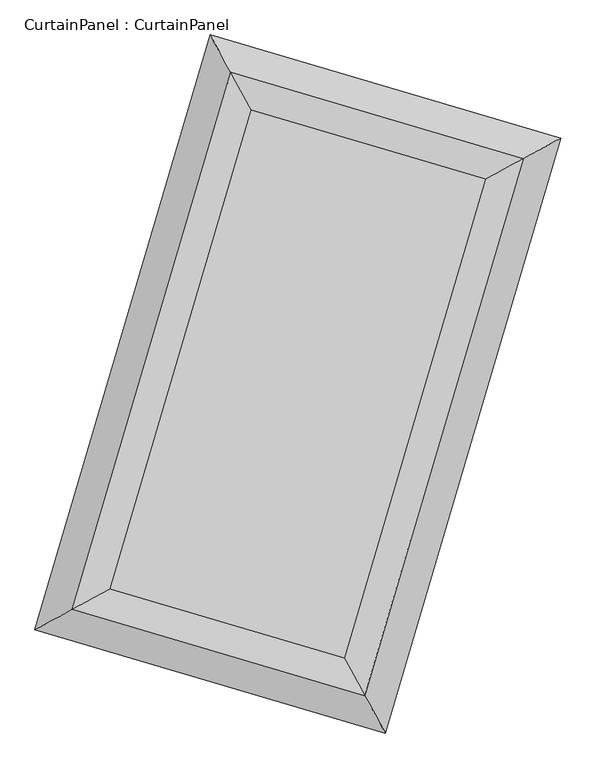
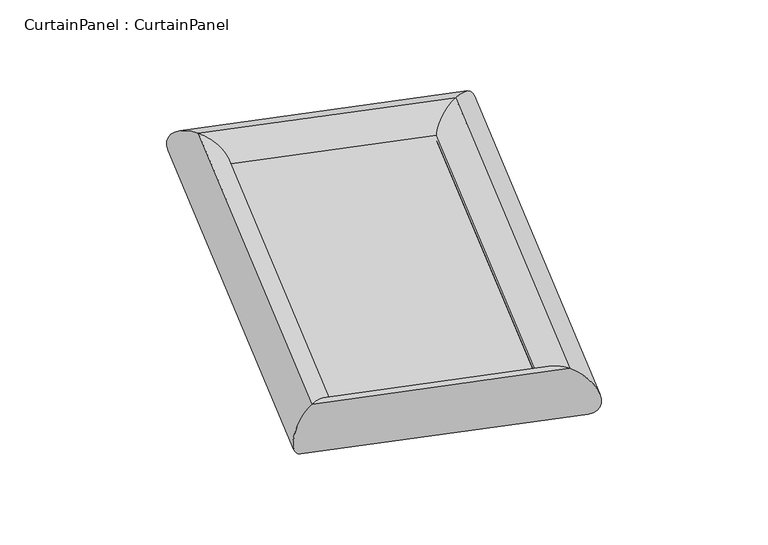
"""IFC4 building model written with IfcOpenShell, lengths in millimetres: plate geometry, CurtainPanel : CurtainPanel."""

import ifcopenshell
import ifcopenshell.guid

model = None  # the IFC model being written
_history = None  # IfcOwnerHistory: only IFC2X3 demands one
_inside = {}  # id of a spatial element -> (the spatial element, [elements in it])
_under = {}  # id of a project, library or spatial element -> (it, [spatial elements below it])
_declared = {}  # id of a project -> (the project, [libraries it declares])
_typed = {}  # id of a type object -> (the type object, [elements of that type])
_made_of = {}  # id of a material, layer set ... -> (it, [elements and type objects made of it])


def new_model(schema):
    """Start an empty IFC model of exactly this schema.

    Asked for "IFC4X3", IfcOpenShell would pick the latest addendum, in which some entities
    have other attributes; the version numbers below select the first issue.
    IFC2X3 requires an IfcOwnerHistory on every rooted entity: one is made here for all.
    """
    global model, _history
    if schema == "IFC4X3":
        model = ifcopenshell.file(schema_version=(4, 3, 0, 0))
    else:
        model = ifcopenshell.file(schema=schema)
    _inside.clear()
    _under.clear()
    _declared.clear()
    _typed.clear()
    _made_of.clear()
    _history = None
    if model.schema == "IFC2X3":
        org = make("IfcOrganization", Name="unknown")
        user = make(
            "IfcPersonAndOrganization",
            ThePerson=make("IfcPerson", FamilyName="unknown"),
            TheOrganization=org,
        )
        app = make(
            "IfcApplication",
            ApplicationDeveloper=org,
            Version="unknown",
            ApplicationFullName="unknown",
            ApplicationIdentifier="unknown",
        )
        _history = make(
            "IfcOwnerHistory",
            OwningUser=user,
            OwningApplication=app,
            ChangeAction="ADDED",
            CreationDate=0,
        )
    return model


def make(cls, **values):
    """One entity of the class cls with the attributes given. An attribute that is None is left unset."""
    return model.create_entity(
        cls, **{name: value for name, value in values.items() if value is not None}
    )


def rooted(cls, **values):
    """An entity with a GlobalId (a new one), such as an element, a storey or a relation."""
    return make(cls, GlobalId=ifcopenshell.guid.new(), OwnerHistory=_history, **values)


def si_unit(unit_type, name, prefix=None):
    """IfcSIUnit, for example si_unit("LENGTHUNIT", "METRE", prefix="MILLI")."""
    return make("IfcSIUnit", UnitType=unit_type, Prefix=prefix, Name=name)


def assignment(units):
    """IfcUnitAssignment: the units of a project."""
    return None if units is None else make("IfcUnitAssignment", Units=units)


def point(xyz):
    """IfcCartesianPoint."""
    return None if xyz is None else make("IfcCartesianPoint", Coordinates=xyz)


def direction(xyz):
    """IfcDirection."""
    return None if xyz is None else make("IfcDirection", DirectionRatios=xyz)


def frame(location, z_axis=None, x_axis=None):
    """IfcAxis2Placement3D, a coordinate frame: its origin and axes. An axis left out is left unset."""
    return make(
        "IfcAxis2Placement3D",
        Location=point(location),
        Axis=direction(z_axis),
        RefDirection=direction(x_axis),
    )


def origin():
    """The frame at (0, 0, 0) with its axes left unset."""
    return frame((0.0, 0.0, 0.0))


def origin_with_axes():
    """The frame at (0, 0, 0) with the z axis (0, 0, 1) and the x axis (1, 0, 0) written out."""
    return frame((0.0, 0.0, 0.0), z_axis=(0.0, 0.0, 1.0), x_axis=(1.0, 0.0, 0.0))


def place(relative_to, where):
    """IfcLocalPlacement: puts the frame where relative to a parent placement (None: the world)."""
    return make(
        "IfcLocalPlacement", PlacementRelTo=relative_to, RelativePlacement=where
    )


def context(
    kind, dimensions, precision=None, world=None, true_north=None, identifier=None
):
    """IfcGeometricRepresentationContext, for example the 3D "Model" context."""
    return make(
        "IfcGeometricRepresentationContext",
        ContextIdentifier=identifier,
        ContextType=kind,
        CoordinateSpaceDimension=dimensions,
        Precision=precision,
        WorldCoordinateSystem=world,
        TrueNorth=true_north,
    )


def project(units=None, contexts=None):
    """IfcProject with its units and contexts."""
    return rooted(
        "IfcProject",
        Name="project",
        RepresentationContexts=contexts,
        UnitsInContext=assignment(units),
    )


def spatial(cls, under=None, at=None, **own):
    """A site, building, storey or space (cls), placed at a placement, below another one or the project."""
    s = rooted(cls, ObjectPlacement=at, **own)
    if under is not None:
        _under.setdefault(under.id(), (under, []))[1].append(s)
    return s


def polyline(points):
    """IfcPolyline through the points."""
    return make("IfcPolyline", Points=[point(p) for p in points])


def ellipse_curve(where, semi_axis1, semi_axis2):
    """IfcEllipse in the frame where."""
    return make(
        "IfcEllipse", Position=where, SemiAxis1=semi_axis1, SemiAxis2=semi_axis2
    )


def outline(outer, holes=None, kind="AREA"):
    """IfcArbitraryClosedProfileDef: a profile drawn as a closed curve; with holes, ...WithVoids."""
    if holes is None:
        return make("IfcArbitraryClosedProfileDef", ProfileType=kind, OuterCurve=outer)
    return make(
        "IfcArbitraryProfileDefWithVoids",
        ProfileType=kind,
        OuterCurve=outer,
        InnerCurves=holes,
    )


def extrude(swept, where, along, depth):
    """IfcExtrudedAreaSolid: the profile swept, set in the frame where, extruded along a direction by depth."""
    return make(
        "IfcExtrudedAreaSolid",
        SweptArea=swept,
        Position=where,
        ExtrudedDirection=direction(along),
        Depth=depth,
    )


def shape(context_of_items, identifier, shape_type, items):
    """IfcShapeRepresentation: the items that make up one representation, for example the "Body"."""
    return make(
        "IfcShapeRepresentation",
        ContextOfItems=context_of_items,
        RepresentationIdentifier=identifier,
        RepresentationType=shape_type,
        Items=items,
    )


def source(mapping_origin, context_of_items, identifier, shape_type, items):
    """IfcRepresentationMap: a shape defined once, which mapped items show again and again."""
    return make(
        "IfcRepresentationMap",
        MappingOrigin=mapping_origin,
        MappedRepresentation=shape(context_of_items, identifier, shape_type, items),
    )


def transform(
    local_origin,
    x_axis=None,
    y_axis=None,
    z_axis=None,
    scale=None,
    scale2=None,
    scale3=None,
    uniform=True,
):
    """IfcCartesianTransformationOperator3D, or its non-uniform kind. x_axis, y_axis, z_axis: its Axis1, 2, 3."""
    if uniform:
        return make(
            "IfcCartesianTransformationOperator3D",
            Axis1=direction(x_axis),
            Axis2=direction(y_axis),
            LocalOrigin=point(local_origin),
            Scale=scale,
            Axis3=direction(z_axis),
        )
    return make(
        "IfcCartesianTransformationOperator3DnonUniform",
        Axis1=direction(x_axis),
        Axis2=direction(y_axis),
        LocalOrigin=point(local_origin),
        Scale=scale,
        Axis3=direction(z_axis),
        Scale2=scale2,
        Scale3=scale3,
    )


def mapped(mapping_source, mapping_target):
    """IfcMappedItem: shows the shape of a source again, moved by a transform."""
    return make(
        "IfcMappedItem", MappingSource=mapping_source, MappingTarget=mapping_target
    )


def made_of(thing, what):
    """Note that an element or type object is made of a material, layer set ...; save() writes the relation."""
    if what is not None:
        _made_of.setdefault(what.id(), (what, []))[1].append(thing)
    return thing


def element(
    cls,
    number,
    at=None,
    inside=None,
    cuts=None,
    type_object=None,
    material=None,
    context=None,
    identifier="Body",
    shape_type=None,
    held_by="IfcProductDefinitionShape",
    body=None,
    shapes=None,
    **own,
):
    """One element of the class cls, such as IfcWall. Its Tag is "e" and its number.

    at: its placement. inside: the storey or other place that contains it. cuts: it is an
    opening in that element (IfcRelVoidsElement). A single representation is given by context,
    identifier, shape_type and body (its items); several are given by shapes. held_by: the class
    of the entity that holds the representations. save() writes the other relations.
    """
    e = rooted(cls, Tag="e%d" % number, ObjectPlacement=at, **own)
    if body is not None:
        shapes = [shape(context, identifier, shape_type, body)]
    if shapes is not None:
        e.Representation = make(held_by, Representations=shapes)
    if inside is not None:
        _inside.setdefault(inside.id(), (inside, []))[1].append(e)
    if cuts is not None:
        rooted(
            "IfcRelVoidsElement", RelatingBuildingElement=cuts, RelatedOpeningElement=e
        )
    if type_object is not None:
        _typed.setdefault(type_object.id(), (type_object, []))[1].append(e)
    return made_of(e, material)


def aggregate(whole, parts):
    """IfcRelAggregates: a whole, such as a stair, and the parts it consists of."""
    return rooted("IfcRelAggregates", RelatingObject=whole, RelatedObjects=parts)


def save(model, path):
    """Write the relations noted so far, then the file.

    IfcRelAggregates (storeys below a building ...), IfcRelContainedInSpatialStructure (elements
    in a storey), IfcRelDefinesByType, IfcRelAssociatesMaterial and IfcRelDeclares: one each for
    every whole, place, type object, material and project.
    """
    for whole, parts in _under.values():
        aggregate(whole, parts)
    for where, things in _inside.values():
        rooted(
            "IfcRelContainedInSpatialStructure",
            RelatedElements=things,
            RelatingStructure=where,
        )
    for kind, things in _typed.values():
        rooted("IfcRelDefinesByType", RelatedObjects=things, RelatingType=kind)
    for what, things in _made_of.values():
        rooted("IfcRelAssociatesMaterial", RelatedObjects=things, RelatingMaterial=what)
    for by, libraries in _declared.values():
        rooted("IfcRelDeclares", RelatingContext=by, RelatedDefinitions=libraries)
    model.write(path)


def cylinder_surface(at, radius):
    """IfcCylindricalSurface: all points at the distance radius from the z axis of the frame at."""
    return make("IfcCylindricalSurface", Position=at, Radius=radius)


def advanced_brep(points, edges, surfaces, faces):
    """IfcAdvancedBrep: a solid bounded by faces that lie on surfaces and meet in shared edges.

    An edge is (start, end): straight between two places in points (the first is 0);
    or (start, end, curve); or (start, end, curve, False) where it runs against its curve.
    A face is (place in surfaces, loops), or (place, loops, False) where it looks against
    its surface's normal. A loop lists edges by number (the first is 1), with a minus sign
    where the edge is run from its end to its start. The first loop is the outer one.
    """
    corners = [point(p) for p in points]
    vertices = [make("IfcVertexPoint", VertexGeometry=c) for c in corners]
    made = []
    for start, end, *more in edges:
        made.append(
            make(
                "IfcEdgeCurve",
                EdgeStart=vertices[start],
                EdgeEnd=vertices[end],
                EdgeGeometry=more[0] if more else make("IfcPolyline", Points=[corners[start], corners[end]]),
                SameSense=more[1] if len(more) > 1 else True,
            )
        )
    hull = []
    for where, loops, *sense in faces:
        bounds = []
        for j, loop in enumerate(loops):
            ring = [make("IfcOrientedEdge", EdgeElement=made[abs(k) - 1], Orientation=k > 0) for k in loop]
            bounds.append(
                make(
                    "IfcFaceOuterBound" if j == 0 else "IfcFaceBound",
                    Bound=make("IfcEdgeLoop", EdgeList=ring),
                    Orientation=True,
                )
            )
        hull.append(make("IfcAdvancedFace", Bounds=bounds, FaceSurface=surfaces[where], SameSense=sense[0] if sense else True))
    return make("IfcAdvancedBrep", Outer=make("IfcClosedShell", CfsFaces=hull))


def curtainpanel_curtainpanel_422c0389(model_context):
    return source(origin(), model_context, "Body", "SolidModel", [
        extrude(outline(polyline([(2938.1282504, 2938.1282504), (4084.8670099, 6830.7109683), (6205.8717496, 6205.8717496), (5059.1329901, 2313.2890317), (2938.1282504, 2938.1282504)])), origin_with_axes(), (0.0, 0.0, 1.0), 20.0),
        advanced_brep(
        [(2938.1282504, 2938.1282504, -220.0), (2938.1282504, 2938.1282504, 220.0), (5059.1329901, 2313.2890317, 220.0), (5059.1329901, 2313.2890317, -220.0), (6205.8717496, 6205.8717496, 220.0), (6205.8717496, 6205.8717496, -220.0), (4084.8670099, 6830.7109683, 220.0), (4084.8670099, 6830.7109683, -220.0)],
        [
            (0, 1, ellipse_curve(frame((2938.1282504, 2938.1282504, 0.0), z_axis=(0.4784657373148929, -0.878106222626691, 0.0), x_axis=(-0.8781062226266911, -0.47846573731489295, 0.0)), 311.1269837, 220.0)),
            (1, 2),
            (2, 3, ellipse_curve(frame((5059.1329901, 2313.2890317, 0.0), z_axis=(-0.8781062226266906, -0.47846573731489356, 0.0), x_axis=(-0.4784657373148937, 0.8781062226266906, 0.0)), 311.1269837, 220.0)),
            (3, 0),
            (1, 0, ellipse_curve(frame((2938.1282504, 2938.1282504, 0.0), z_axis=(0.4784657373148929, -0.878106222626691, 0.0), x_axis=(-0.8781062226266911, -0.47846573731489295, 0.0)), 311.1269837, 220.0)),
            (3, 2, ellipse_curve(frame((5059.1329901, 2313.2890317, 0.0), z_axis=(-0.8781062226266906, -0.47846573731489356, 0.0), x_axis=(-0.4784657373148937, 0.8781062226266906, 0.0)), 311.1269837, 220.0)),
            (2, 4),
            (4, 5, ellipse_curve(frame((6205.8717496, 6205.8717496, 0.0), z_axis=(0.4784657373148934, -0.8781062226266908, 0.0), x_axis=(-0.8781062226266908, -0.4784657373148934, 0.0)), 311.1269837, 220.0)),
            (5, 3),
            (5, 4, ellipse_curve(frame((6205.8717496, 6205.8717496, 0.0), z_axis=(0.4784657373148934, -0.8781062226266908, 0.0), x_axis=(-0.8781062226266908, -0.4784657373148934, 0.0)), 311.1269837, 220.0)),
            (4, 6),
            (6, 7, ellipse_curve(frame((4084.8670099, 6830.7109683, 0.0), z_axis=(0.8781062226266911, 0.4784657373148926, 0.0), x_axis=(0.4784657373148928, -0.8781062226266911, 0.0)), 311.1269837, 220.0)),
            (7, 5),
            (7, 6, ellipse_curve(frame((4084.8670099, 6830.7109683, 0.0), z_axis=(0.8781062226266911, 0.4784657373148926, 0.0), x_axis=(0.4784657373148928, -0.8781062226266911, 0.0)), 311.1269837, 220.0)),
            (6, 1),
            (0, 7),
        ],
        [
            cylinder_surface(frame((2938.1282504, 2938.1282504, 0.0), z_axis=(-0.9592412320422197, 0.2825884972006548, 0.0), x_axis=(0.2825884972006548, 0.9592412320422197, 0.0)), 220.0),
            cylinder_surface(frame((5059.1329901, 2313.2890317, 0.0), z_axis=(-0.2825884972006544, -0.9592412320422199, 0.0), x_axis=(-0.9592412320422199, 0.2825884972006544, 0.0)), 220.0),
            cylinder_surface(frame((6205.8717496, 6205.8717496, 0.0), z_axis=(0.9592412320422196, -0.28258849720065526, 0.0), x_axis=(-0.28258849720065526, -0.9592412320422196, 0.0)), 220.0),
            cylinder_surface(frame((4084.8670099, 6830.7109683, 0.0), z_axis=(0.2825884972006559, 0.9592412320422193, 0.0), x_axis=(0.9592412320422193, -0.2825884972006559, 0.0)), 220.0),
        ],
        [
            (0, [[1, 2, 3, 4]]),
            (0, [[5, -4, 6, -2]]),
            (1, [[-3, 7, 8, 9]]),
            (1, [[-6, -9, 10, -7]]),
            (2, [[-8, 11, 12, 13]]),
            (2, [[-10, -13, 14, -11]]),
            (3, [[-12, 15, -1, 16]]),
            (3, [[-14, -16, -5, -15]]),
        ],
    ),
    ])


if __name__ == "__main__":
    model = new_model("IFC4")
    model_context = context("Model", 3, world=origin())
    ifc_project = project(units=[si_unit("LENGTHUNIT", "METRE", prefix="MILLI")], contexts=[model_context])
    site = spatial("IfcSite", under=ifc_project)
    building = spatial("IfcBuilding", under=site)
    placement = place(None, origin())
    curtainpanel_curtainpanel_shape = curtainpanel_curtainpanel_422c0389(model_context)
    element("IfcPlate", 1, ObjectType="CurtainPanel : CurtainPanel", at=placement, inside=building, context=model_context, shape_type="MappedRepresentation", body=[
        mapped(curtainpanel_curtainpanel_shape, transform((0.0, 0.0, 0.0), x_axis=(1.0, 0.0, 0.0), y_axis=(0.0, 1.0, 0.0), z_axis=(0.0, 0.0, 1.0))),
    ])
    save(model, "model.ifc")
